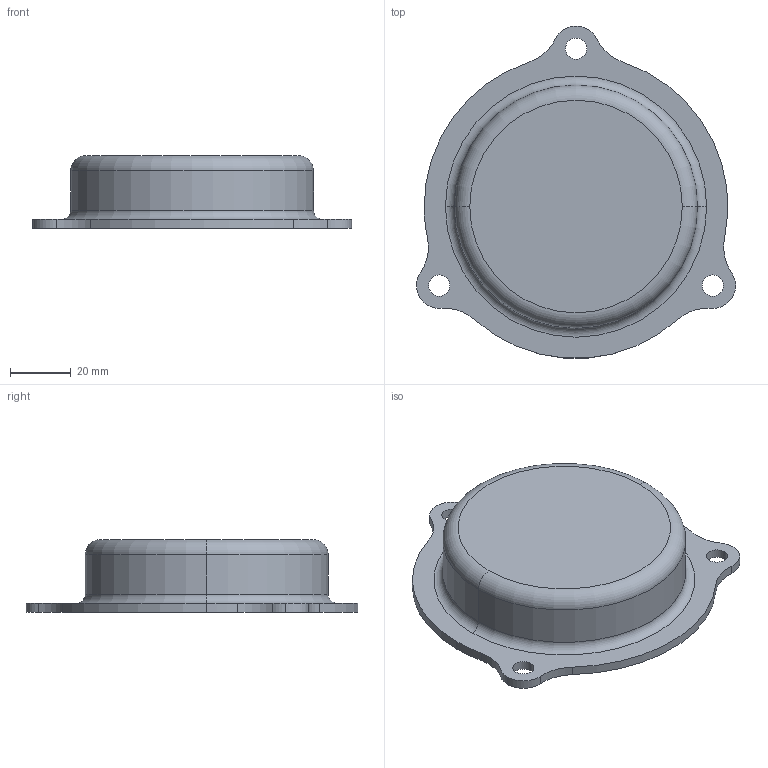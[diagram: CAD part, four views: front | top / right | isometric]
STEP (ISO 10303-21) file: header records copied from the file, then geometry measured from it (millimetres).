
FILE_DESCRIPTION (( 'STEP AP203' ), '1' );
FILE_NAME ('PEYD066.STEP', '2017-05-03T06:44:09', ( 'user' ), ( '' ), 'SwSTEP 2.0', 'SolidWorks 2012', '' );
FILE_SCHEMA (( 'CONFIG_CONTROL_DESIGN' ));
Length unit declared in the file: millimetre
Products named in the file (1): PEYD066
Bounding box: 105.04 x 109.31 x 24 mm (x, y, z)
Volume: 28577.4 mm3; surface area: 26408.1 mm2
Topology: 1 solids, 1 shells, 37 faces, 91 edges, 58 vertices
Faces by surface type: cylinder 25, torus 8, plane 4
Entity records: 1216 total; most frequent: DIRECTION 233, CARTESIAN_POINT 187, ORIENTED_EDGE 182, AXIS2_PLACEMENT_3D 104, EDGE_CURVE 91, CIRCLE 66, VERTEX_POINT 58, EDGE_LOOP 45
